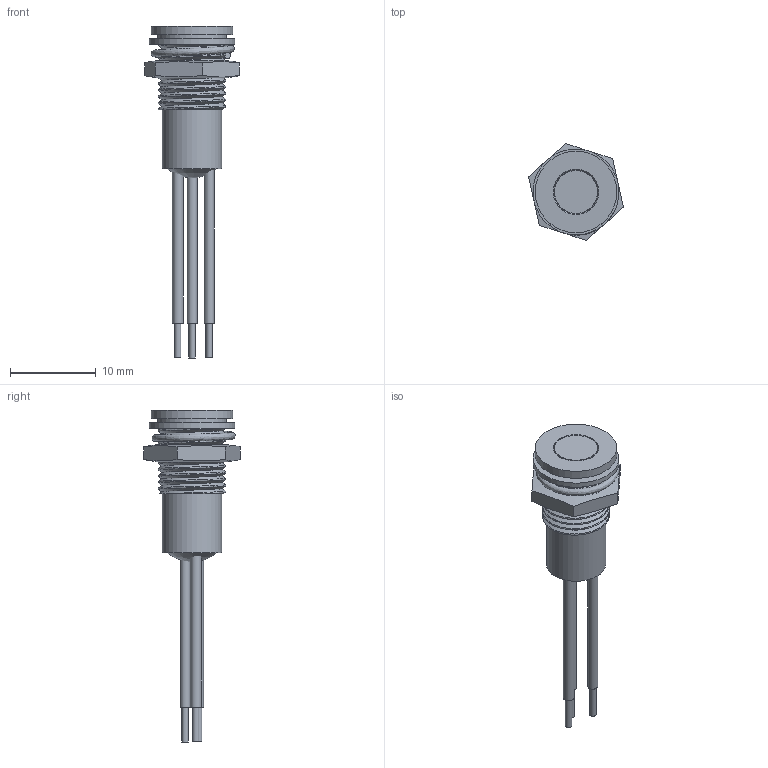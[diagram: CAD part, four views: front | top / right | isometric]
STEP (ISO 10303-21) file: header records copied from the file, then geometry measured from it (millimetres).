
FILE_DESCRIPTION( ( 'Unknown' ), '1' );
FILE_NAME( 'D:/My Documents/Q series 3D files/Q8F5CZZRYG.stp', 'Unknown', ( 'Unknown' ), ( 'Unknown' ), 'PSStep 15.0.49', 'Unknown', ' ' );
FILE_SCHEMA( ( 'AUTOMOTIVE_DESIGN { 1 0 10303 214 1 1 1 1 }' ) );
Length unit declared in the file: millimetre
Products named in the file (11): Assem1; 34-0085; 5mm-flat short tri-colour; wire-black-short; wire-green-short; wire-red short; 21-0026; 13-0036; 26-0048; 8mm potting 6,0dia
Assembly tree (10 placements, depth 2):
  Assem1
    34-0085
    5mm-flat short tri-colour
    wire-black-short
    wire-green-short
    wire-red short
    21-0026
    13-0036
    26-0048
    8mm potting 6,0dia
    8mm potting 6,0dia
Bounding box: 11.01 x 11.28 x 38.66 mm (x, y, z)
Volume: 824.4 mm3; surface area: 1998.6 mm2
Topology: 10 solids, 10 shells, 96 faces, 193 edges, 129 vertices
Faces by surface type: plane 62, cylinder 23, bspline 9, cone 2
Full cylindrical faces by diameter (mm): 0.75 x6, 1.1 x2, 1.15 x2, 1.25 x1, 5 x1, 5.1 x1, 6 x2, 6.9 x1, 7.8 x1, 8 x1, 9.5 x1, 10 x1
Entity records: 13195 total; most frequent: CARTESIAN_POINT 10421, DIRECTION 369, ORIENTED_EDGE 318, EDGE_CURVE 159, AXIS2_PLACEMENT_3D 149, EDGE_LOOP 144, VERTEX_POINT 122, FACE_OUTER_BOUND 119
